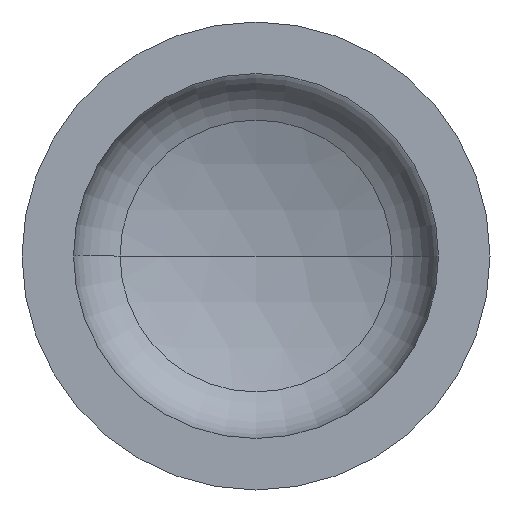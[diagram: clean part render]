
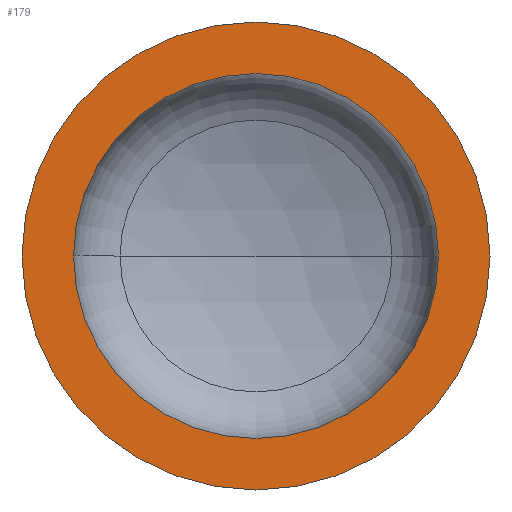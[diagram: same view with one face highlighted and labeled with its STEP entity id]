
A CAD part, front view. The second image highlights one B-rep face of the part: STEP entity #179.
In plain terms, the highlighted planar face has unit normal (0, -1, 0).
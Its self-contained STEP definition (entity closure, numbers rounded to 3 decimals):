
#8 = AXIS2_PLACEMENT_3D ( 'NONE', #135, #335, #162 ) ;
#19 = AXIS2_PLACEMENT_3D ( 'NONE', #158, #360, #190 ) ;
#27 = AXIS2_PLACEMENT_3D ( 'NONE', #99, #154, #356 ) ;
#49 = CIRCLE ( 'NONE', #53, 312. ) ;
#53 = AXIS2_PLACEMENT_3D ( 'NONE', #184, #183, #171 ) ;
#56 = AXIS2_PLACEMENT_3D ( 'NONE', #232, #182, #177 ) ;
#62 = VERTEX_POINT ( 'NONE', #300 ) ;
#78 = EDGE_CURVE ( 'NONE', #258, #62, #297, .T. ) ;
#80 = EDGE_CURVE ( 'NONE', #148, #85, #49, .T. ) ;
#84 = CIRCLE ( 'NONE', #8, 400. ) ;
#85 = VERTEX_POINT ( 'NONE', #283 ) ;
#99 = CARTESIAN_POINT ( 'NONE',  ( -400., 0., 0. ) ) ;
#124 = ORIENTED_EDGE ( 'NONE', *, *, #371, .T. ) ;
#135 = CARTESIAN_POINT ( 'NONE',  ( 0., 0., 0. ) ) ;
#142 = ORIENTED_EDGE ( 'NONE', *, *, #80, .F. ) ;
#148 = VERTEX_POINT ( 'NONE', #312 ) ;
#154 = DIRECTION ( 'NONE',  ( 0., 1., 0. ) ) ;
#156 = ORIENTED_EDGE ( 'NONE', *, *, #344, .F. ) ;
#158 = CARTESIAN_POINT ( 'NONE',  ( 0., 0., 0. ) ) ;
#162 = DIRECTION ( 'NONE',  ( 1., 0., 0. ) ) ;
#171 = DIRECTION ( 'NONE',  ( 1., 0., 0. ) ) ;
#177 = DIRECTION ( 'NONE',  ( 1., 0., 0. ) ) ;
#179 = ADVANCED_FACE ( 'NONE', ( #337, #186 ), #380, .F. ) ;
#182 = DIRECTION ( 'NONE',  ( 0., -1., 0. ) ) ;
#183 = DIRECTION ( 'NONE',  ( 0., -1., 0. ) ) ;
#184 = CARTESIAN_POINT ( 'NONE',  ( 0., 0., 0. ) ) ;
#186 = FACE_OUTER_BOUND ( 'NONE', #394, .T. ) ;
#190 = DIRECTION ( 'NONE',  ( 1., 0., 0. ) ) ;
#232 = CARTESIAN_POINT ( 'NONE',  ( 0., 0., 0. ) ) ;
#235 = CIRCLE ( 'NONE', #19, 312. ) ;
#258 = VERTEX_POINT ( 'NONE', #269 ) ;
#269 = CARTESIAN_POINT ( 'NONE',  ( -400., 0., 0. ) ) ;
#283 = CARTESIAN_POINT ( 'NONE',  ( -312., 0., 0. ) ) ;
#297 = CIRCLE ( 'NONE', #56, 400. ) ;
#300 = CARTESIAN_POINT ( 'NONE',  ( 400., 0., 0. ) ) ;
#312 = CARTESIAN_POINT ( 'NONE',  ( 312., 0., 0. ) ) ;
#332 = ORIENTED_EDGE ( 'NONE', *, *, #78, .T. ) ;
#335 = DIRECTION ( 'NONE',  ( 0., -1., 0. ) ) ;
#337 = FACE_BOUND ( 'NONE', #354, .T. ) ;
#344 = EDGE_CURVE ( 'NONE', #85, #148, #235, .T. ) ;
#354 = EDGE_LOOP ( 'NONE', ( #142, #156 ) ) ;
#356 = DIRECTION ( 'NONE',  ( -1., 0., 0. ) ) ;
#360 = DIRECTION ( 'NONE',  ( 0., -1., 0. ) ) ;
#371 = EDGE_CURVE ( 'NONE', #62, #258, #84, .T. ) ;
#380 = PLANE ( 'NONE',  #27 ) ;
#394 = EDGE_LOOP ( 'NONE', ( #124, #332 ) ) ;
